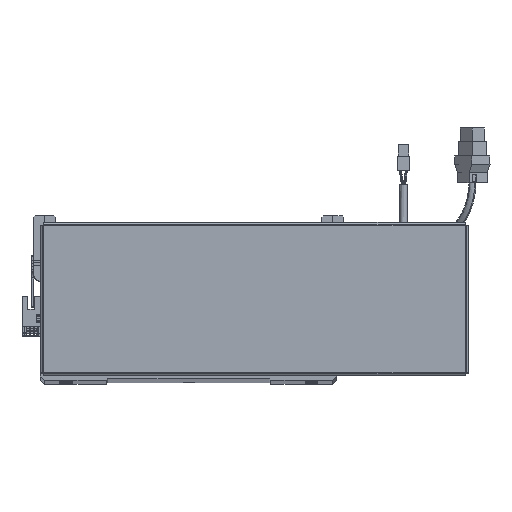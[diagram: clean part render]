
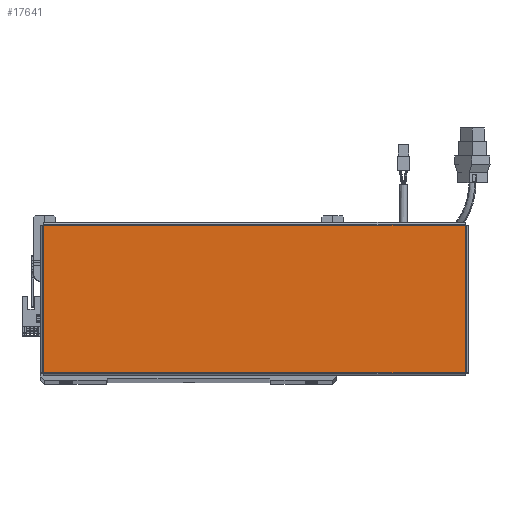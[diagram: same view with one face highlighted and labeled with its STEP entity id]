
A CAD part, top view. The second image highlights one B-rep face of the part: STEP entity #17641.
In plain terms, the highlighted planar face has unit normal (0, 0, 1).
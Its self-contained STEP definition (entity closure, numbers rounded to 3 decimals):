
#3845 = VECTOR ( 'NONE', #54458, 1000. ) ;
#4712 = LINE ( 'NONE', #25389, #3845 ) ;
#6020 = VERTEX_POINT ( 'NONE', #41737 ) ;
#9210 = VERTEX_POINT ( 'NONE', #74261 ) ;
#9375 = ORIENTED_EDGE ( 'NONE', *, *, #17007, .T. ) ;
#9972 = CARTESIAN_POINT ( 'NONE',  ( 0., 0., 0. ) ) ;
#10643 = ORIENTED_EDGE ( 'NONE', *, *, #40785, .T. ) ;
#14433 = AXIS2_PLACEMENT_3D ( 'NONE', #9972, #38575, #39032 ) ;
#15720 = PLANE ( 'NONE',  #14433 ) ;
#17007 = EDGE_CURVE ( 'NONE', #9210, #67595, #4712, .T. ) ;
#17641 = ADVANCED_FACE ( 'NONE', ( #45830 ), #15720, .T. ) ;
#18693 = DIRECTION ( 'NONE',  ( 1., 0., 0. ) ) ;
#24707 = ORIENTED_EDGE ( 'NONE', *, *, #35586, .T. ) ;
#25389 = CARTESIAN_POINT ( 'NONE',  ( 156.513, -54.793, 0. ) ) ;
#30622 = ORIENTED_EDGE ( 'NONE', *, *, #45397, .T. ) ;
#34049 = VECTOR ( 'NONE', #18693, 1000. ) ;
#34687 = VECTOR ( 'NONE', #53843, 1000. ) ;
#35581 = CARTESIAN_POINT ( 'NONE',  ( -156.513, 54.793, 0. ) ) ;
#35586 = EDGE_CURVE ( 'NONE', #67595, #6020, #54709, .T. ) ;
#36575 = VERTEX_POINT ( 'NONE', #44642 ) ;
#38575 = DIRECTION ( 'NONE',  ( 0., 0., 1. ) ) ;
#39032 = DIRECTION ( 'NONE',  ( 1., 0., 0. ) ) ;
#40785 = EDGE_CURVE ( 'NONE', #36575, #9210, #70835, .T. ) ;
#41737 = CARTESIAN_POINT ( 'NONE',  ( -156.513, 54.763, 0. ) ) ;
#44642 = CARTESIAN_POINT ( 'NONE',  ( -156.513, -54.763, 0. ) ) ;
#45397 = EDGE_CURVE ( 'NONE', #6020, #36575, #49889, .T. ) ;
#45830 = FACE_OUTER_BOUND ( 'NONE', #61257, .T. ) ;
#46325 = DIRECTION ( 'NONE',  ( -1., 0., 0. ) ) ;
#49889 = LINE ( 'NONE', #35581, #34687 ) ;
#53003 = CARTESIAN_POINT ( 'NONE',  ( -156.543, -54.763, 0. ) ) ;
#53843 = DIRECTION ( 'NONE',  ( 0., -1., 0. ) ) ;
#54458 = DIRECTION ( 'NONE',  ( 0., 1., 0. ) ) ;
#54709 = LINE ( 'NONE', #63690, #61907 ) ;
#61257 = EDGE_LOOP ( 'NONE', ( #10643, #9375, #24707, #30622 ) ) ;
#61907 = VECTOR ( 'NONE', #46325, 1000. ) ;
#63690 = CARTESIAN_POINT ( 'NONE',  ( 156.543, 54.763, 0. ) ) ;
#65154 = CARTESIAN_POINT ( 'NONE',  ( 156.513, 54.763, 0. ) ) ;
#67595 = VERTEX_POINT ( 'NONE', #65154 ) ;
#70835 = LINE ( 'NONE', #53003, #34049 ) ;
#74261 = CARTESIAN_POINT ( 'NONE',  ( 156.513, -54.763, 0. ) ) ;
